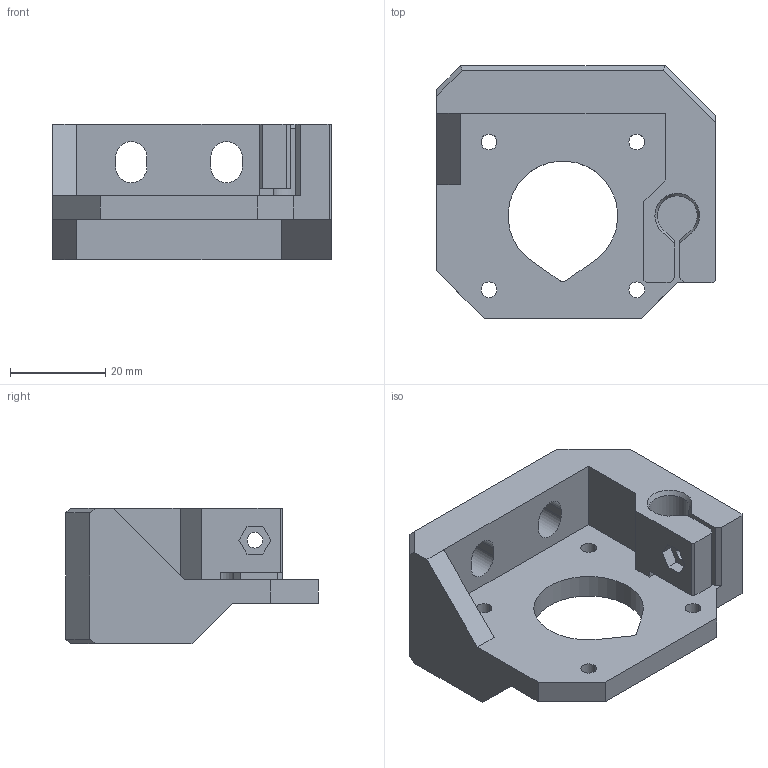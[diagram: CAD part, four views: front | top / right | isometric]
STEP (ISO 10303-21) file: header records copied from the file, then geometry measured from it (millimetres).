
FILE_DESCRIPTION(('CATIA V5 STEP Exchange'),'2;1');
FILE_NAME('D:\_이전 노트북\Cremaker모델링\Cremaker_profile-Metal(5차)-(Final)\Z-motor-block-R.stp','2020-10-23T05:18:24+00:00',('none'),('none'),'CATIA Version 5 Release 20 GA (IN-10)','CATIA V5 STEP AP203','none');
FILE_SCHEMA(('CONFIG_CONTROL_DESIGN'));
Length unit declared in the file: millimetre
Products named in the file (1): Z-motor-block-R
Bounding box: 58.5 x 53 x 28.5 mm (x, y, z)
Volume: 32162.3 mm3; surface area: 12487.3 mm2
Topology: 1 solids, 1 shells, 85 faces, 231 edges, 149 vertices
Faces by surface type: plane 61, cylinder 19, cone 5
Entity records: 2612 total; most frequent: CARTESIAN_POINT 463, ORIENTED_EDGE 462, DIRECTION 367, EDGE_CURVE 231, VECTOR 179, LINE 179, VERTEX_POINT 149, AXIS2_PLACEMENT_3D 117
